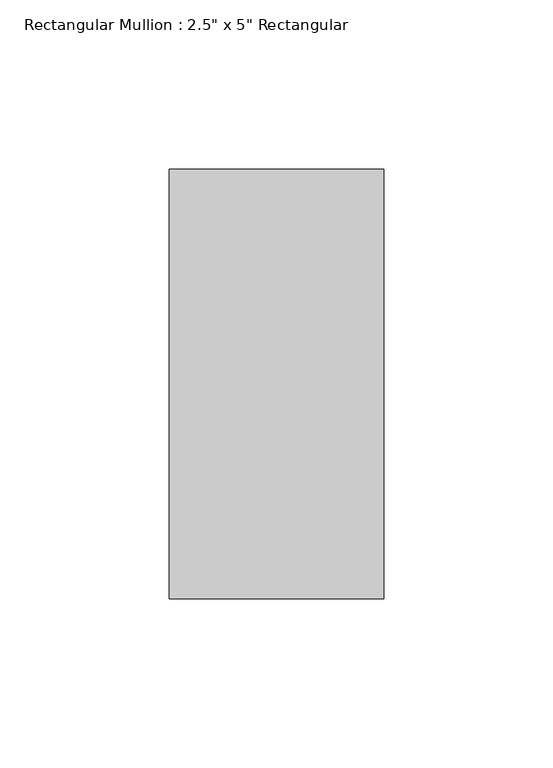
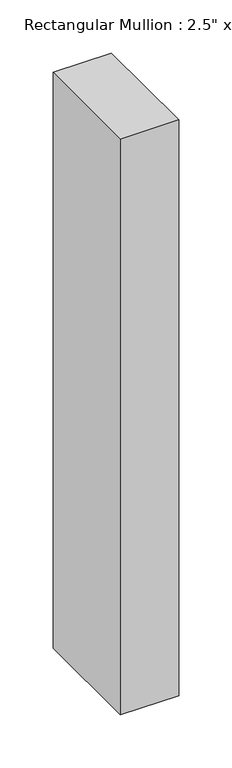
"""IFC4 building model written with IfcOpenShell, lengths in millimetres: member geometry."""

from ifc_helpers import new_model, si_unit, frame, origin, place, context, project, spatial, polyline, outline, extrude, source, transform, mapped, element, save


def member_085bdbbf(model_context):
    return source(origin(), model_context, "Body", "SweptSolid", [
        extrude(outline(polyline([(0.0, 63.5), (0.0, -63.5), (-63.5, -63.5), (-63.5, 63.5), (0.0, 63.5)])), frame((0.0, 0.0, -662.694972), z_axis=(0.0, 0.0, 1.0), x_axis=(1.0, 0.0, 0.0)), (0.0, 0.0, 1.0), 662.694972),
    ])


if __name__ == "__main__":
    model = new_model("IFC4")
    model_context = context("Model", 3, world=origin())
    ifc_project = project(units=[si_unit("LENGTHUNIT", "METRE", prefix="MILLI")], contexts=[model_context])
    site = spatial("IfcSite", under=ifc_project)
    building = spatial("IfcBuilding", under=site)
    placement = place(None, origin())
    member_shape = member_085bdbbf(model_context)
    element("IfcMember", 1, ObjectType="Rectangular Mullion : 2.5\" x 5\" Rectangular", at=placement, inside=building, context=model_context, shape_type="MappedRepresentation", body=[
        mapped(member_shape, transform((0.0, 0.0, 0.0), x_axis=(1.0, 0.0, 0.0), y_axis=(0.0, 1.0, 0.0), z_axis=(0.0, 0.0, 1.0))),
    ])
    save(model, "model.ifc")
